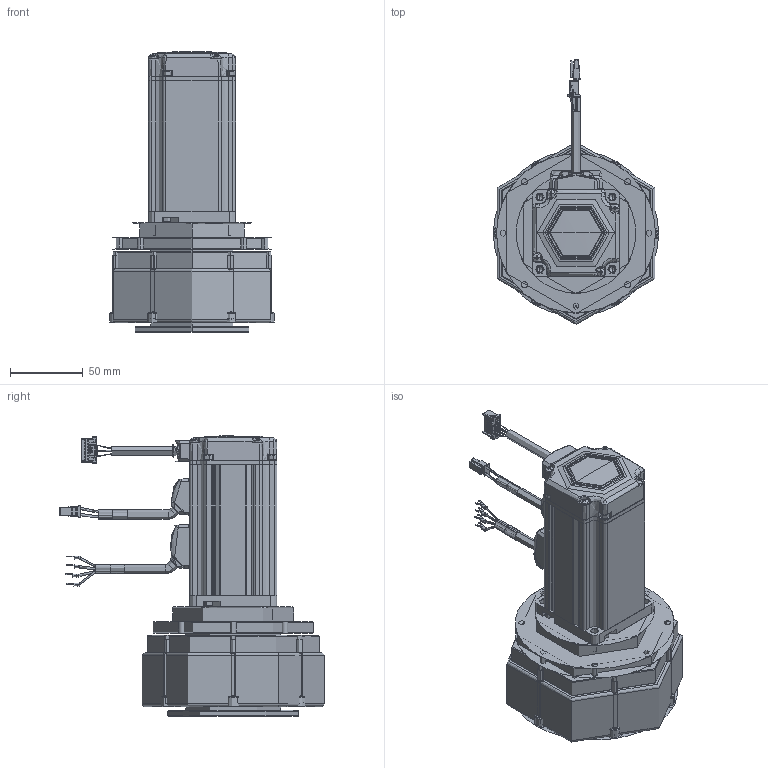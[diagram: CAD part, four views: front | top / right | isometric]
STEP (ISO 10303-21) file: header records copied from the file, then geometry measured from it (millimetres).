
FILE_DESCRIPTION((''),'2;1');
FILE_NAME('MSD125-020-30GSL-B_ASM','2026-05-22T14:23:32',('MS28159'),(''),'CREO PARAMETRIC BY PTC INC, 2018100','CREO PARAMETRIC BY PTC INC, 2018100','');
FILE_SCHEMA(('CONFIG_CONTROL_DESIGN'));
Products named in the file (9): SINGLE_COIL_LOCK_WASHERS_LIGHT_; HEXAGON_SOCKET_HEAD_CAP_SCREWS_; AEQ-95-H37-W125_1; AEQ-095C-L2-14-1_X2_6A21578BFF0; AEQ-095C-L2-14-1-H37-W125_ASM_1_ASM; ASM0008_ASM_1_ASM; SM0601-SL-KCY-NNV_ASM_1_ASM; SM0601-SL-KCY-BNV_ASM; MSD125-020-30GSL-B_ASM
Assembly tree (30 placements, depth 5):
  MSD125-020-30GSL-B_ASM
    SM0601-SL-KCY-NNV_ASM_1_ASM
      ASM0008_ASM_1_ASM
        AEQ-095C-L2-14-1-H37-W125_ASM_1_ASM
          SINGLE_COIL_LOCK_WASHERS_LIGHT_  x12
          HEXAGON_SOCKET_HEAD_CAP_SCREWS_  x12
          AEQ-95-H37-W125_1
          AEQ-095C-L2-14-1_X2_6A21578BFF0
    SM0601-SL-KCY-BNV_ASM
Bounding box: 113.21 x 181.54 x 192.5 mm (x, y, z)
Topology: 26 solids, 93 shells, 4353 faces, 11135 edges, 6962 vertices
Faces by surface type: plane 1725, cylinder 1162, cone 532, torus 321, bspline 271, extrusion 189, sphere 153
Full cylindrical faces by diameter (mm): 2.551 x3
Entity records: 213648 total; most frequent: CARTESIAN_POINT 118674, ORIENTED_EDGE 20158, DIRECTION 18991, EDGE_CURVE 10083, AXIS2_PLACEMENT_3D 6976, VERTEX_POINT 6426, VECTOR 5039, LINE 4850
